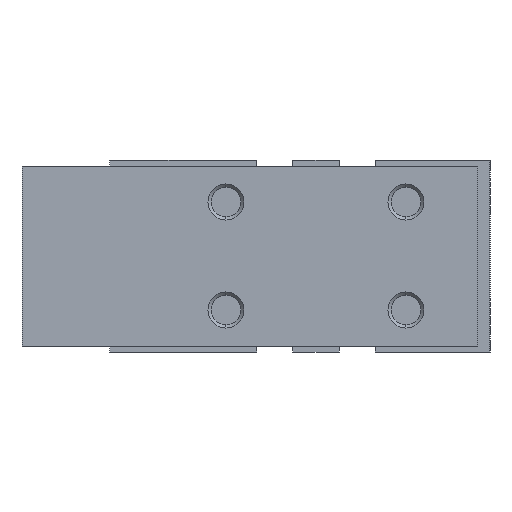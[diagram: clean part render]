
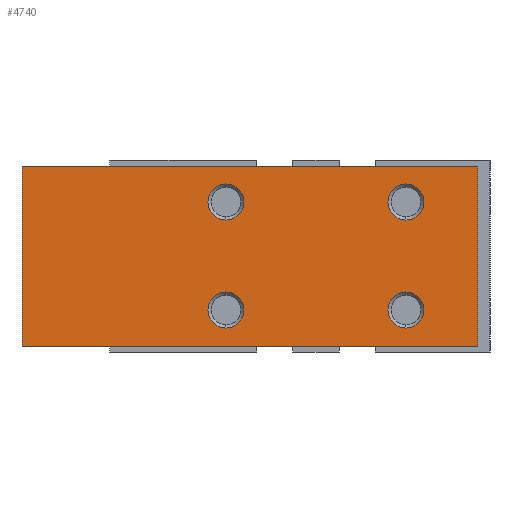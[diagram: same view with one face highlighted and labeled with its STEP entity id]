
A CAD part, left-side view. The second image highlights one B-rep face of the part: STEP entity #4740.
In plain terms, the highlighted planar face has unit normal (-1, 0, 0).
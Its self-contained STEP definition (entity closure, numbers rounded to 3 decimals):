
#7 = CIRCLE ( 'NONE', #308, 1.5 ) ;
#26 = DIRECTION ( 'NONE',  ( 0., 0., 1. ) ) ;
#104 = CARTESIAN_POINT ( 'NONE',  ( -8.5, 7.5, -4.5 ) ) ;
#169 = FACE_BOUND ( 'NONE', #2443, .T. ) ;
#207 = LINE ( 'NONE', #3111, #5643 ) ;
#233 = CARTESIAN_POINT ( 'NONE',  ( -8.5, 24.5, 7.5 ) ) ;
#308 = AXIS2_PLACEMENT_3D ( 'NONE', #3860, #4806, #4838 ) ;
#325 = VERTEX_POINT ( 'NONE', #3194 ) ;
#393 = DIRECTION ( 'NONE',  ( 0., 0., 1. ) ) ;
#398 = DIRECTION ( 'NONE',  ( 0., 0., 1. ) ) ;
#476 = CARTESIAN_POINT ( 'NONE',  ( -8.5, -7.5, -6. ) ) ;
#693 = EDGE_LOOP ( 'NONE', ( #5825, #3654 ) ) ;
#722 = ORIENTED_EDGE ( 'NONE', *, *, #5012, .F. ) ;
#818 = ORIENTED_EDGE ( 'NONE', *, *, #3128, .F. ) ;
#939 = AXIS2_PLACEMENT_3D ( 'NONE', #4727, #1919, #398 ) ;
#1014 = DIRECTION ( 'NONE',  ( -1., 0., 0. ) ) ;
#1026 = LINE ( 'NONE', #1130, #3374 ) ;
#1078 = PLANE ( 'NONE',  #2277 ) ;
#1130 = CARTESIAN_POINT ( 'NONE',  ( -8.5, 24.5, 7.5 ) ) ;
#1143 = CARTESIAN_POINT ( 'NONE',  ( -8.5, -7.5, 6. ) ) ;
#1226 = EDGE_CURVE ( 'NONE', #1354, #4548, #1343, .T. ) ;
#1251 = ORIENTED_EDGE ( 'NONE', *, *, #3828, .F. ) ;
#1313 = ORIENTED_EDGE ( 'NONE', *, *, #1226, .F. ) ;
#1343 = CIRCLE ( 'NONE', #2367, 1.5 ) ;
#1354 = VERTEX_POINT ( 'NONE', #3876 ) ;
#1441 = CARTESIAN_POINT ( 'NONE',  ( -8.5, -7.5, -4.5 ) ) ;
#1499 = DIRECTION ( 'NONE',  ( 0., 0., -1. ) ) ;
#1536 = ORIENTED_EDGE ( 'NONE', *, *, #3059, .F. ) ;
#1543 = EDGE_LOOP ( 'NONE', ( #1313, #3914 ) ) ;
#1571 = EDGE_CURVE ( 'NONE', #4639, #3215, #207, .T. ) ;
#1613 = EDGE_CURVE ( 'NONE', #2150, #5257, #3588, .T. ) ;
#1642 = FACE_BOUND ( 'NONE', #693, .T. ) ;
#1781 = CARTESIAN_POINT ( 'NONE',  ( -8.5, 7.5, 3. ) ) ;
#1919 = DIRECTION ( 'NONE',  ( -1., 0., 0. ) ) ;
#1969 = CARTESIAN_POINT ( 'NONE',  ( -8.5, 24.5, -7.5 ) ) ;
#2150 = VERTEX_POINT ( 'NONE', #2871 ) ;
#2199 = DIRECTION ( 'NONE',  ( 0., -1., 0. ) ) ;
#2277 = AXIS2_PLACEMENT_3D ( 'NONE', #3954, #5416, #4021 ) ;
#2289 = EDGE_CURVE ( 'NONE', #2150, #4639, #1026, .T. ) ;
#2367 = AXIS2_PLACEMENT_3D ( 'NONE', #1441, #5784, #26 ) ;
#2443 = EDGE_LOOP ( 'NONE', ( #1536, #818 ) ) ;
#2457 = CARTESIAN_POINT ( 'NONE',  ( -8.5, -13.5, 7.5 ) ) ;
#2604 = FACE_OUTER_BOUND ( 'NONE', #4034, .T. ) ;
#2629 = EDGE_CURVE ( 'NONE', #2669, #325, #3123, .T. ) ;
#2669 = VERTEX_POINT ( 'NONE', #1781 ) ;
#2702 = ORIENTED_EDGE ( 'NONE', *, *, #3208, .F. ) ;
#2726 = VERTEX_POINT ( 'NONE', #3459 ) ;
#2771 = CARTESIAN_POINT ( 'NONE',  ( -8.5, 7.5, 4.5 ) ) ;
#2802 = CARTESIAN_POINT ( 'NONE',  ( -8.5, 7.5, 4.5 ) ) ;
#2854 = CARTESIAN_POINT ( 'NONE',  ( -8.5, 7.5, -4.5 ) ) ;
#2871 = CARTESIAN_POINT ( 'NONE',  ( -8.5, 24.5, 7.5 ) ) ;
#2904 = DIRECTION ( 'NONE',  ( 0., 0., -1. ) ) ;
#3039 = CIRCLE ( 'NONE', #4953, 1.5 ) ;
#3059 = EDGE_CURVE ( 'NONE', #5917, #3630, #3637, .T. ) ;
#3069 = ORIENTED_EDGE ( 'NONE', *, *, #2289, .T. ) ;
#3083 = DIRECTION ( 'NONE',  ( 0., -1., 0. ) ) ;
#3111 = CARTESIAN_POINT ( 'NONE',  ( -8.5, 24.5, -7.5 ) ) ;
#3123 = CIRCLE ( 'NONE', #5850, 1.5 ) ;
#3128 = EDGE_CURVE ( 'NONE', #3630, #5917, #3039, .T. ) ;
#3194 = CARTESIAN_POINT ( 'NONE',  ( -8.5, 7.5, 6. ) ) ;
#3208 = EDGE_CURVE ( 'NONE', #2726, #4738, #7, .T. ) ;
#3215 = VERTEX_POINT ( 'NONE', #4401 ) ;
#3238 = DIRECTION ( 'NONE',  ( -1., 0., 0. ) ) ;
#3245 = ORIENTED_EDGE ( 'NONE', *, *, #1571, .T. ) ;
#3354 = EDGE_CURVE ( 'NONE', #325, #2669, #5151, .T. ) ;
#3355 = DIRECTION ( 'NONE',  ( 0., 0., 1. ) ) ;
#3374 = VECTOR ( 'NONE', #1499, 1000. ) ;
#3405 = AXIS2_PLACEMENT_3D ( 'NONE', #3942, #5300, #5361 ) ;
#3459 = CARTESIAN_POINT ( 'NONE',  ( -8.5, -7.5, 3. ) ) ;
#3490 = FACE_BOUND ( 'NONE', #1543, .T. ) ;
#3588 = LINE ( 'NONE', #233, #5847 ) ;
#3630 = VERTEX_POINT ( 'NONE', #5943 ) ;
#3637 = CIRCLE ( 'NONE', #3929, 1.5 ) ;
#3654 = ORIENTED_EDGE ( 'NONE', *, *, #2629, .F. ) ;
#3828 = EDGE_CURVE ( 'NONE', #4738, #2726, #6127, .T. ) ;
#3860 = CARTESIAN_POINT ( 'NONE',  ( -8.5, -7.5, 4.5 ) ) ;
#3876 = CARTESIAN_POINT ( 'NONE',  ( -8.5, -7.5, -3. ) ) ;
#3914 = ORIENTED_EDGE ( 'NONE', *, *, #6095, .F. ) ;
#3929 = AXIS2_PLACEMENT_3D ( 'NONE', #2854, #4272, #4774 ) ;
#3942 = CARTESIAN_POINT ( 'NONE',  ( -8.5, -7.5, 4.5 ) ) ;
#3954 = CARTESIAN_POINT ( 'NONE',  ( -8.5, 24.5, 7.5 ) ) ;
#3986 = CARTESIAN_POINT ( 'NONE',  ( -8.5, -13.5, 7.5 ) ) ;
#4021 = DIRECTION ( 'NONE',  ( 0., 1., 0. ) ) ;
#4034 = EDGE_LOOP ( 'NONE', ( #3245, #722, #6117, #3069 ) ) ;
#4270 = CIRCLE ( 'NONE', #939, 1.5 ) ;
#4272 = DIRECTION ( 'NONE',  ( -1., 0., 0. ) ) ;
#4310 = DIRECTION ( 'NONE',  ( 0., 0., 1. ) ) ;
#4401 = CARTESIAN_POINT ( 'NONE',  ( -8.5, -13.5, -7.5 ) ) ;
#4451 = LINE ( 'NONE', #2457, #4896 ) ;
#4548 = VERTEX_POINT ( 'NONE', #476 ) ;
#4600 = EDGE_LOOP ( 'NONE', ( #1251, #2702 ) ) ;
#4637 = CARTESIAN_POINT ( 'NONE',  ( -8.5, 7.5, -3. ) ) ;
#4639 = VERTEX_POINT ( 'NONE', #1969 ) ;
#4727 = CARTESIAN_POINT ( 'NONE',  ( -8.5, -7.5, -4.5 ) ) ;
#4738 = VERTEX_POINT ( 'NONE', #1143 ) ;
#4740 = ADVANCED_FACE ( 'NONE', ( #2604, #169, #4936, #3490, #1642 ), #1078, .F. ) ;
#4774 = DIRECTION ( 'NONE',  ( 0., 0., 1. ) ) ;
#4806 = DIRECTION ( 'NONE',  ( -1., 0., 0. ) ) ;
#4838 = DIRECTION ( 'NONE',  ( 0., 0., 1. ) ) ;
#4896 = VECTOR ( 'NONE', #2904, 1000. ) ;
#4936 = FACE_BOUND ( 'NONE', #4600, .T. ) ;
#4953 = AXIS2_PLACEMENT_3D ( 'NONE', #104, #1014, #3355 ) ;
#5012 = EDGE_CURVE ( 'NONE', #5257, #3215, #4451, .T. ) ;
#5151 = CIRCLE ( 'NONE', #5660, 1.5 ) ;
#5257 = VERTEX_POINT ( 'NONE', #3986 ) ;
#5300 = DIRECTION ( 'NONE',  ( -1., 0., 0. ) ) ;
#5361 = DIRECTION ( 'NONE',  ( 0., 0., 1. ) ) ;
#5416 = DIRECTION ( 'NONE',  ( 1., 0., 0. ) ) ;
#5643 = VECTOR ( 'NONE', #3083, 1000. ) ;
#5660 = AXIS2_PLACEMENT_3D ( 'NONE', #2771, #3238, #393 ) ;
#5745 = DIRECTION ( 'NONE',  ( -1., 0., 0. ) ) ;
#5784 = DIRECTION ( 'NONE',  ( -1., 0., 0. ) ) ;
#5825 = ORIENTED_EDGE ( 'NONE', *, *, #3354, .F. ) ;
#5847 = VECTOR ( 'NONE', #2199, 1000. ) ;
#5850 = AXIS2_PLACEMENT_3D ( 'NONE', #2802, #5745, #4310 ) ;
#5917 = VERTEX_POINT ( 'NONE', #4637 ) ;
#5943 = CARTESIAN_POINT ( 'NONE',  ( -8.5, 7.5, -6. ) ) ;
#6095 = EDGE_CURVE ( 'NONE', #4548, #1354, #4270, .T. ) ;
#6117 = ORIENTED_EDGE ( 'NONE', *, *, #1613, .F. ) ;
#6127 = CIRCLE ( 'NONE', #3405, 1.5 ) ;
